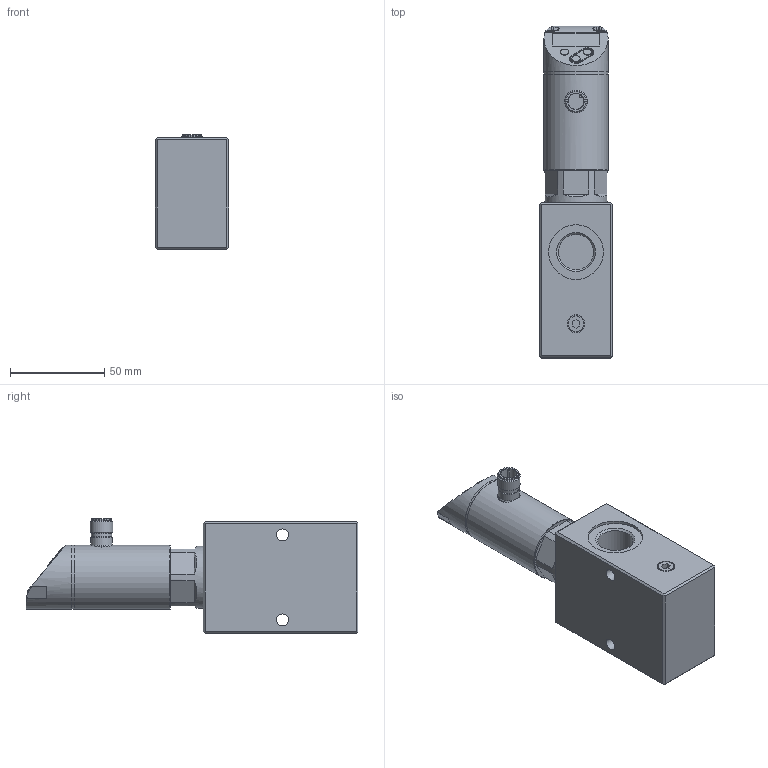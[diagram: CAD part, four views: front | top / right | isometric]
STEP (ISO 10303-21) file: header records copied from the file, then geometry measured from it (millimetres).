
FILE_DESCRIPTION( ( 'STEP AP203' ), '1' );
FILE_NAME( 'p:/temp/worker_71/temp/exporttempdir_3196_78_Q9wIV/format_1/SBZ224.stp', '2022-03-15T11:02:02', ( 'License CC BY-ND 4.0' ), ( 'CADENAS' ), ' ', 'PARTsolutions', ' ' );
FILE_SCHEMA( ( 'CONFIG_CONTROL_DESIGN' ) );
Length unit declared in the file: millimetre
Products named in the file (1): _SBZ224
Bounding box: 39 x 175.8 x 60.5 mm (x, y, z)
Volume: 241111 mm3; surface area: 36509.7 mm2
Topology: 1 solids, 1 shells, 151 faces, 365 edges, 241 vertices
Faces by surface type: plane 100, cylinder 43, cone 8
Full cylindrical faces by diameter (mm): 4.45 x3, 6.3 x2, 8.45 x1, 8.5 x1, 9.5 x1, 10.39 x1, 10.55 x1, 10.8 x1, 11.3 x1, 12 x1, 18.631 x1, 20.955 x1, 29 x2, 32.87 x1, 33.9 x1, 34 x2, 34.1 x1
Entity records: 4402 total; most frequent: CARTESIAN_POINT 886, DIRECTION 732, ORIENTED_EDGE 656, EDGE_CURVE 328, AXIS2_PLACEMENT_3D 264, VERTEX_POINT 234, EDGE_LOOP 210, LINE 204
